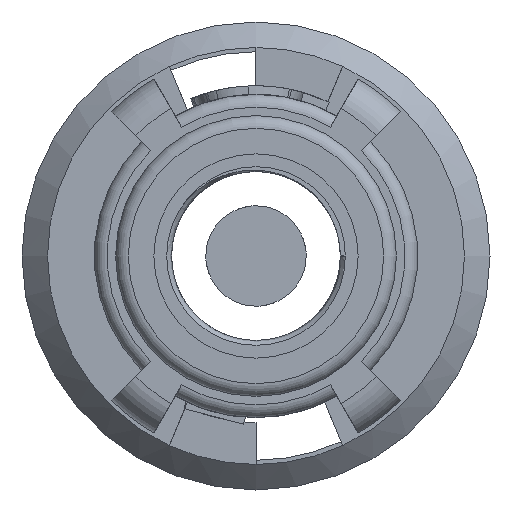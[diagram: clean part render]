
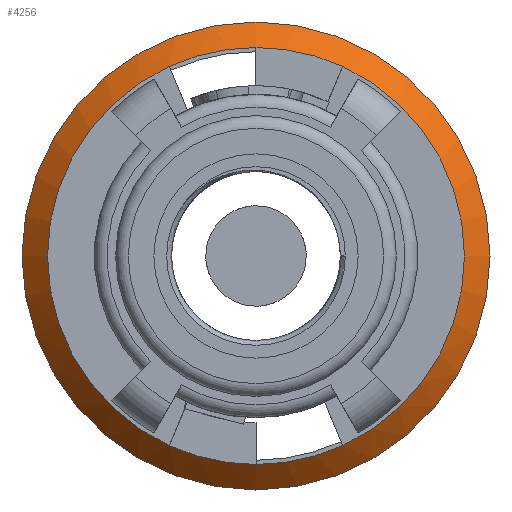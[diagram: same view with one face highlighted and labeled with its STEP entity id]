
A CAD part, front view. The second image highlights one B-rep face of the part: STEP entity #4256.
In plain terms, the highlighted conical face has half-angle 45 degrees and reference radius 6.604 mm.
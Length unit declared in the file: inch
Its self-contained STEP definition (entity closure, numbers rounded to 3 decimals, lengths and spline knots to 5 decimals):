
#59=CONICAL_SURFACE('',#4683,0.26,0.785);
#553=FACE_OUTER_BOUND('',#801,.T.);
#801=EDGE_LOOP('',(#3770,#3771,#3772,#3773,#3774,#3775,#3776,#3777,#3778,
#3779,#3780,#3781,#3782));
#1111=LINE('',#9114,#1413);
#1413=VECTOR('',#5597,0.26);
#1491=CIRCLE('',#4453,0.245);
#1495=CIRCLE('',#4462,0.245);
#1498=CIRCLE('',#4466,0.245);
#1508=CIRCLE('',#4480,0.245);
#1517=CIRCLE('',#4492,0.245);
#1518=CIRCLE('',#4493,0.245);
#1531=CIRCLE('',#4514,0.245);
#1533=CIRCLE('',#4517,0.245);
#1537=CIRCLE('',#4526,0.245);
#1598=CIRCLE('',#4684,0.275);
#1599=CIRCLE('',#4685,0.275);
#1758=VERTEX_POINT('',#6320);
#1759=VERTEX_POINT('',#6321);
#1770=VERTEX_POINT('',#6353);
#1773=VERTEX_POINT('',#6361);
#1788=VERTEX_POINT('',#6399);
#1805=VERTEX_POINT('',#6442);
#1806=VERTEX_POINT('',#6444);
#1826=VERTEX_POINT('',#6501);
#1828=VERTEX_POINT('',#6507);
#1994=VERTEX_POINT('',#9113);
#1995=VERTEX_POINT('',#9115);
#2182=EDGE_CURVE('',#1758,#1759,#1491,.T.);
#2198=EDGE_CURVE('',#1759,#1770,#1495,.T.);
#2203=EDGE_CURVE('',#1773,#1758,#1498,.T.);
#2221=EDGE_CURVE('',#1788,#1773,#1508,.T.);
#2244=EDGE_CURVE('',#1770,#1805,#1517,.T.);
#2245=EDGE_CURVE('',#1805,#1806,#1518,.T.);
#2274=EDGE_CURVE('',#1806,#1826,#1531,.T.);
#2277=EDGE_CURVE('',#1826,#1828,#1533,.T.);
#2291=EDGE_CURVE('',#1828,#1788,#1537,.T.);
#2602=EDGE_CURVE('',#1805,#1994,#1111,.T.);
#2603=EDGE_CURVE('',#1994,#1995,#1598,.T.);
#2604=EDGE_CURVE('',#1995,#1994,#1599,.T.);
#3770=ORIENTED_EDGE('',*,*,#2291,.F.);
#3771=ORIENTED_EDGE('',*,*,#2277,.F.);
#3772=ORIENTED_EDGE('',*,*,#2274,.F.);
#3773=ORIENTED_EDGE('',*,*,#2245,.F.);
#3774=ORIENTED_EDGE('',*,*,#2602,.T.);
#3775=ORIENTED_EDGE('',*,*,#2603,.T.);
#3776=ORIENTED_EDGE('',*,*,#2604,.T.);
#3777=ORIENTED_EDGE('',*,*,#2602,.F.);
#3778=ORIENTED_EDGE('',*,*,#2244,.F.);
#3779=ORIENTED_EDGE('',*,*,#2198,.F.);
#3780=ORIENTED_EDGE('',*,*,#2182,.F.);
#3781=ORIENTED_EDGE('',*,*,#2203,.F.);
#3782=ORIENTED_EDGE('',*,*,#2221,.F.);
#4256=ADVANCED_FACE('',(#553),#59,.T.);
#4453=AXIS2_PLACEMENT_3D('',#6322,#4903,#4904);
#4462=AXIS2_PLACEMENT_3D('',#6354,#4933,#4934);
#4466=AXIS2_PLACEMENT_3D('',#6363,#4943,#4944);
#4480=AXIS2_PLACEMENT_3D('',#6400,#4979,#4980);
#4492=AXIS2_PLACEMENT_3D('',#6443,#5017,#5018);
#4493=AXIS2_PLACEMENT_3D('',#6445,#5019,#5020);
#4514=AXIS2_PLACEMENT_3D('',#6502,#5077,#5078);
#4517=AXIS2_PLACEMENT_3D('',#6508,#5084,#5085);
#4526=AXIS2_PLACEMENT_3D('',#6533,#5112,#5113);
#4683=AXIS2_PLACEMENT_3D('',#9112,#5595,#5596);
#4684=AXIS2_PLACEMENT_3D('',#9116,#5598,#5599);
#4685=AXIS2_PLACEMENT_3D('',#9117,#5600,#5601);
#4903=DIRECTION('center_axis',(0.,-1.,0.));
#4904=DIRECTION('ref_axis',(1.,0.,0.));
#4933=DIRECTION('center_axis',(0.,-1.,0.));
#4934=DIRECTION('ref_axis',(1.,0.,0.));
#4943=DIRECTION('center_axis',(0.,-1.,0.));
#4944=DIRECTION('ref_axis',(1.,0.,0.));
#4979=DIRECTION('center_axis',(0.,-1.,0.));
#4980=DIRECTION('ref_axis',(1.,0.,0.));
#5017=DIRECTION('center_axis',(0.,-1.,0.));
#5018=DIRECTION('ref_axis',(1.,0.,0.));
#5019=DIRECTION('center_axis',(0.,-1.,0.));
#5020=DIRECTION('ref_axis',(1.,0.,0.));
#5077=DIRECTION('center_axis',(0.,-1.,0.));
#5078=DIRECTION('ref_axis',(1.,0.,0.));
#5084=DIRECTION('center_axis',(0.,-1.,0.));
#5085=DIRECTION('ref_axis',(1.,0.,0.));
#5112=DIRECTION('center_axis',(0.,-1.,0.));
#5113=DIRECTION('ref_axis',(1.,0.,0.));
#5595=DIRECTION('center_axis',(0.,1.,0.));
#5596=DIRECTION('ref_axis',(1.,0.,0.));
#5597=DIRECTION('',(-0.707,0.707,0.));
#5598=DIRECTION('center_axis',(0.,-1.,0.));
#5599=DIRECTION('ref_axis',(1.,0.,0.));
#5600=DIRECTION('center_axis',(0.,-1.,0.));
#5601=DIRECTION('ref_axis',(1.,0.,0.));
#6320=CARTESIAN_POINT('',(0.10175,-0.12,0.22287));
#6321=CARTESIAN_POINT('',(0.,-0.12,0.245));
#6322=CARTESIAN_POINT('Origin',(0.,-0.12,0.));
#6353=CARTESIAN_POINT('',(-0.10191,-0.12,0.2228));
#6354=CARTESIAN_POINT('Origin',(0.,-0.12,0.));
#6361=CARTESIAN_POINT('',(0.10191,-0.12,0.2228));
#6363=CARTESIAN_POINT('Origin',(0.,-0.12,0.));
#6399=CARTESIAN_POINT('',(0.10191,-0.12,-0.2228));
#6400=CARTESIAN_POINT('Origin',(0.,-0.12,0.));
#6442=CARTESIAN_POINT('',(-0.245,-0.12,0.));
#6443=CARTESIAN_POINT('Origin',(0.,-0.12,0.));
#6444=CARTESIAN_POINT('',(-0.10191,-0.12,-0.2228));
#6445=CARTESIAN_POINT('Origin',(0.,-0.12,0.));
#6501=CARTESIAN_POINT('',(-0.10175,-0.12,-0.22287));
#6502=CARTESIAN_POINT('Origin',(0.,-0.12,0.));
#6507=CARTESIAN_POINT('',(0.,-0.12,-0.245));
#6508=CARTESIAN_POINT('Origin',(0.,-0.12,0.));
#6533=CARTESIAN_POINT('Origin',(0.,-0.12,0.));
#9112=CARTESIAN_POINT('Origin',(0.,-0.105,0.));
#9113=CARTESIAN_POINT('',(-0.275,-0.09,0.));
#9114=CARTESIAN_POINT('',(-0.26,-0.105,0.));
#9115=CARTESIAN_POINT('',(0.275,-0.09,0.));
#9116=CARTESIAN_POINT('Origin',(0.,-0.09,0.));
#9117=CARTESIAN_POINT('Origin',(0.,-0.09,0.));
